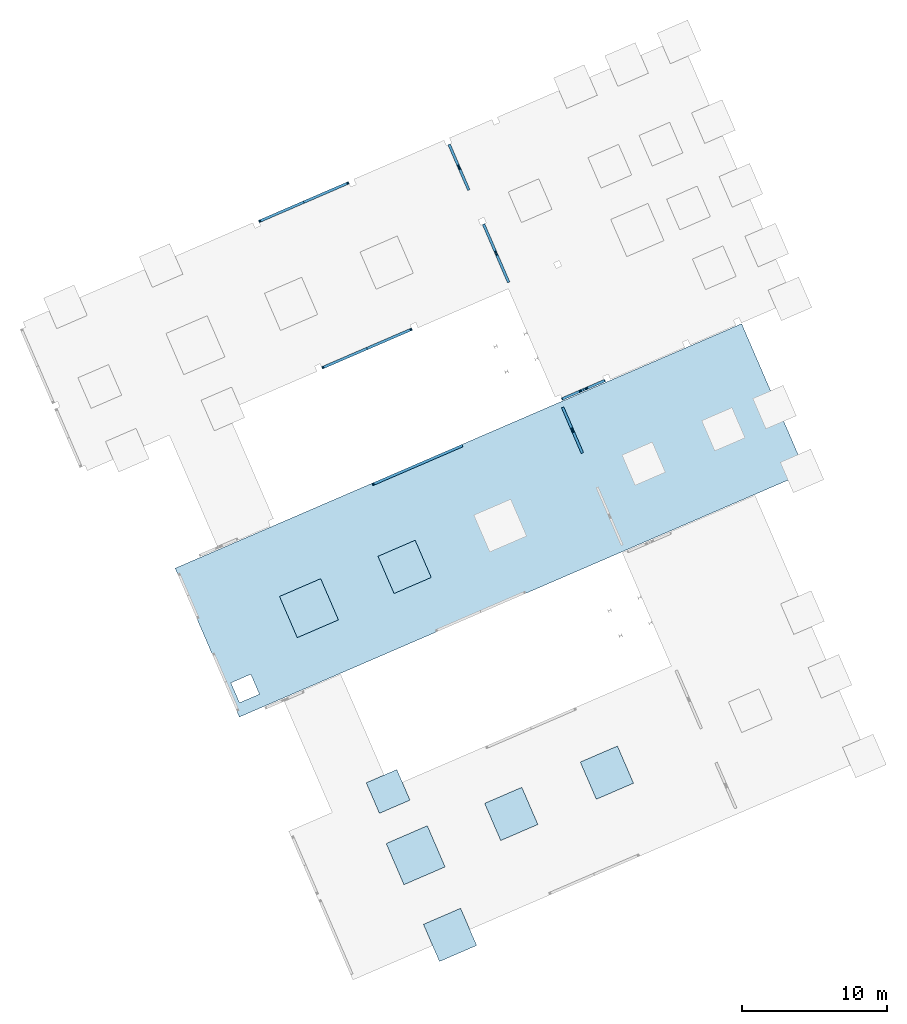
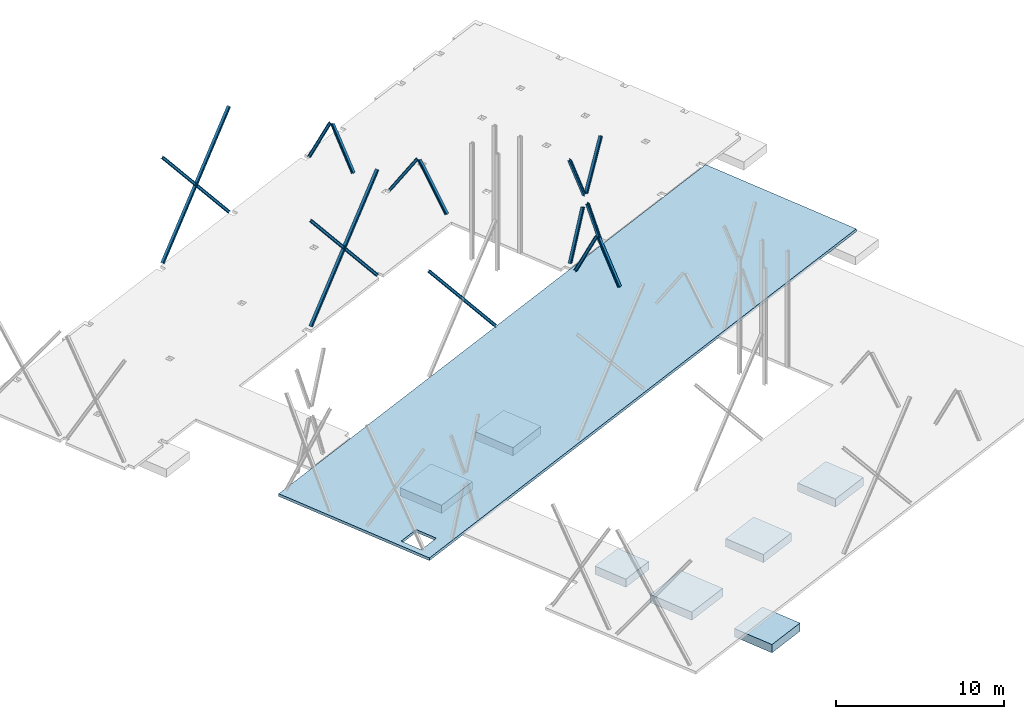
# One storey, part 4 of 6: 15 members, 8 slabs, 1 opening.
"""IFC4 building model written with IfcOpenShell, lengths in metres."""

from ifc_helpers import new_model, entity, si_unit, converted_unit, derived_unit, direction, frame, origin, place, context, subcontext, project, spatial, line, arc, indexed_curve, outline, extrude, source, transform, mapped, material, type_object, type_shapes, element, save


model = new_model("IFC4")

# Units and contexts
model_context = context("Model", 3, precision=1e-05, world=origin(), true_north=direction((6.12323399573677e-17, 1.0)))
body_context = subcontext(model_context, "Body", "Model", "MODEL_VIEW")
ifc_project = project(units=[si_unit("LENGTHUNIT", "METRE"), si_unit("AREAUNIT", "SQUARE_METRE"), si_unit("VOLUMEUNIT", "CUBIC_METRE"), converted_unit("PLANEANGLEUNIT", "DEGREE", entity("IfcPlaneAngleMeasure", 0.0174532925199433), si_unit("PLANEANGLEUNIT", "RADIAN"), dimensions=[0, 0, 0, 0, 0, 0, 0]), si_unit("MASSUNIT", "GRAM", prefix="KILO"), derived_unit("MOMENTOFINERTIAUNIT", [(si_unit("LENGTHUNIT", "METRE"), 4)]), derived_unit("LINEARFORCEUNIT", [(si_unit("MASSUNIT", "GRAM", prefix="KILO"), 1), (si_unit("TIMEUNIT", "SECOND"), -2)]), derived_unit("WARPINGCONSTANTUNIT", [(si_unit("LENGTHUNIT", "METRE"), 6)]), derived_unit("THERMALTRANSMITTANCEUNIT", [(si_unit("MASSUNIT", "GRAM", prefix="KILO"), 1), (si_unit("THERMODYNAMICTEMPERATUREUNIT", "KELVIN"), -1), (si_unit("TIMEUNIT", "SECOND"), -3)]), derived_unit("USERDEFINED", [(si_unit("MASSUNIT", "GRAM", prefix="KILO"), 1), (si_unit("TIMEUNIT", "SECOND"), -2), (si_unit("THERMODYNAMICTEMPERATUREUNIT", "KELVIN"), -1)]), derived_unit("THERMALRESISTANCEUNIT", [(si_unit("MASSUNIT", "GRAM", prefix="KILO"), -1), (si_unit("TIMEUNIT", "SECOND"), 3), (si_unit("THERMODYNAMICTEMPERATUREUNIT", "KELVIN"), 1)])], contexts=[model_context])

# Site, building, storey
site_placement = place(None, origin())
site = spatial("IfcSite", under=ifc_project, at=site_placement, Name="Default", CompositionType="ELEMENT")
building_placement = place(site_placement, frame((12.6613425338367, -82.5732315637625, 317.15), z_axis=(0.0, 0.0, 1.0), x_axis=(-0.396377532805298, 0.918087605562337, 0.0)))
building = spatial("IfcBuilding", under=site, at=building_placement, Name="CESFAM Coyhaique", CompositionType="ELEMENT")
storey_placement = place(building_placement, frame((0.0, 0.0, -0.0500000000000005)))
storey = spatial("IfcBuildingStorey", under=building, at=storey_placement, Name="Nivel 1", CompositionType="ELEMENT", Elevation=-0.0500000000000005)

# Members
ifc_material_1 = material(Name="Steel, 45-345", Category="Metal")
member_type_1 = type_object("IfcMemberType", Name="M_Double C-Channel:doble T HEB 180", PredefinedType="BRACE", material=ifc_material_1)
shared_shape_1 = source(origin(), body_context, "Body", "SweptSolid", [
    extrude(outline(indexed_curve([(-0.045425, -0.0899999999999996), (0.0445749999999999, -0.0899999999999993), (0.0397422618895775, -0.0783327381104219), (0.0280749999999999, -0.0735000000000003), (-0.0272249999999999, -0.0647413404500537), (-0.0272249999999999, 0.0647413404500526), (0.0280750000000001, 0.0734999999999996), (0.0397422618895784, 0.078332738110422), (0.044575, 0.0900000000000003), (-0.045425, 0.0900000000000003)], segments=[line(1, 2), arc(2, 3, 4), line(4, 5, 6, 7), arc(7, 8, 9), line(9, 10, 1)], self_intersect=False)), frame((-5.19380430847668, -0.0454249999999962, 0.0), z_axis=(1.0, 0.0, 0.0), x_axis=(0.0, -1.0, 0.0)), (0.0, 0.0, 1.0), 10.1788586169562),
    extrude(outline(indexed_curve([(-0.0899999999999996, -0.045425), (0.0900000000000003, -0.045425), (0.0900000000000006, 0.044575), (0.0783327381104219, 0.0397422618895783), (0.0734999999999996, 0.028075), (0.0647413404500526, -0.0272249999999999), (-0.0647413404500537, -0.0272249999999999), (-0.0735000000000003, 0.0280749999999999), (-0.0783327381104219, 0.0397422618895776), (-0.0899999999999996, 0.0445749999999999)], segments=[line(1, 2, 3), arc(3, 4, 5), line(5, 6, 7, 8), arc(8, 9, 10), line(10, 1)], self_intersect=False)), frame((-5.19380430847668, 0.0454250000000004, 0.0), z_axis=(1.0, 0.0, 0.0), x_axis=(0.0, 0.0, -1.0)), (0.0, 0.0, 1.0), 10.1788586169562),
])
type_shapes(member_type_1, [shared_shape_1])
for number, where, z_axis, x_axis in (
    (1, (34.878853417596, -0.72898966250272, 4.1162273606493), (0.0, -0.757332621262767, 0.653029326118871), (0.0, 0.653029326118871, 0.757332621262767)),
    (2, (43.6588534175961, -0.865309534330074, 4.1162273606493), (0.0, 0.757332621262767, 0.653029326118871), (0.0, -0.653029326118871, 0.757332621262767)),
    (3, (54.6788534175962, -0.728989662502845, 4.1162273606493), (0.0, -0.757332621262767, 0.653029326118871), (0.0, 0.653029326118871, 0.757332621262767)),
):
    element("IfcMember", number, at=place(storey_placement, frame(where, z_axis=z_axis, x_axis=x_axis)), inside=storey, type_object=member_type_1, Name="M_Double C-Channel:doble T HEB 180", ObjectType="M_Double C-Channel:doble T HEB 180", PredefinedType="BRACE", context=body_context, shape_type="MappedRepresentation", body=[
        mapped(shared_shape_1, transform((0.0, 0.0, 0.0), scale=1.0)),
    ])
member_type_2 = type_object("IfcMemberType", Name="M_Double C-Channel:doble T HEB 180", PredefinedType="BRACE", material=ifc_material_1)
shared_shape_2 = source(origin(), body_context, "Body", "SweptSolid", [
    extrude(outline(indexed_curve([(-0.0899999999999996, -0.045425), (0.0900000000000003, -0.045425), (0.0900000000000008, 0.044575), (0.078332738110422, 0.0397422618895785), (0.0734999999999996, 0.028075), (0.0647413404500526, -0.0272249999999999), (-0.0647413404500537, -0.0272249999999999), (-0.0735000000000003, 0.0280749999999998), (-0.0783327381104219, 0.0397422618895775), (-0.0899999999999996, 0.0445749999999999)], segments=[line(1, 2, 3), arc(3, 4, 5), line(5, 6, 7, 8), arc(8, 9, 10), line(10, 1)], self_intersect=False)), frame((-5.19380430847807, 0.0454249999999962, 0.0), z_axis=(1.0, 0.0, 0.0), x_axis=(0.0, 0.0, -1.0)), (0.0, 0.0, 1.0), 10.1788586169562),
    extrude(outline(indexed_curve([(-0.045425, -0.0899999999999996), (0.0445749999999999, -0.0899999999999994), (0.0397422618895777, -0.078332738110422), (0.0280749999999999, -0.0735000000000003), (-0.0272249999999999, -0.0647413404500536), (-0.0272249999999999, 0.0647413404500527), (0.0280749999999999, 0.0734999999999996), (0.0397422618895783, 0.0783327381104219), (0.044575, 0.0900000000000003), (-0.045425, 0.0900000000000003)], segments=[line(1, 2), arc(2, 3, 4), line(4, 5, 6, 7), arc(7, 8, 9), line(9, 10, 1)], self_intersect=False)), frame((-5.19380430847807, -0.0454250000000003, 0.0), z_axis=(1.0, 0.0, 0.0), x_axis=(0.0, -1.0, 0.0)), (0.0, 0.0, 1.0), 10.1788586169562),
])
type_shapes(member_type_2, [shared_shape_2])
for number, where, z_axis, x_axis in (
    (4, (43.6588534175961, -0.728989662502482, 4.1162273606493), (0.0, -0.757332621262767, 0.653029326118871), (0.0, 0.653029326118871, 0.757332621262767)),
    (5, (54.6788534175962, -0.865309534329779, 4.1162273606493), (0.0, 0.757332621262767, 0.653029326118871), (0.0, -0.653029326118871, 0.757332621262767)),
):
    element("IfcMember", number, at=place(storey_placement, frame(where, z_axis=z_axis, x_axis=x_axis)), inside=storey, type_object=member_type_2, Name="M_Double C-Channel:doble T HEB 180", ObjectType="M_Double C-Channel:doble T HEB 180", PredefinedType="BRACE", context=body_context, shape_type="MappedRepresentation", body=[
        mapped(shared_shape_2, transform((0.0, 0.0, 0.0), scale=1.0)),
    ])
member_type_3 = type_object("IfcMemberType", Name="M_Double C-Channel:doble T HEB 180", PredefinedType="BRACE", material=ifc_material_1)
shared_shape_3 = source(origin(), body_context, "Body", "SweptSolid", [
    extrude(outline(indexed_curve([(-0.0899999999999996, -0.045425), (0.0900000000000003, -0.045425), (0.0900000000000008, 0.044575), (0.078332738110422, 0.0397422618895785), (0.0734999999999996, 0.028075), (0.0647413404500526, -0.0272249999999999), (-0.0647413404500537, -0.0272249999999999), (-0.0735000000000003, 0.0280749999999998), (-0.0783327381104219, 0.0397422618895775), (-0.0899999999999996, 0.0445749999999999)], segments=[line(1, 2, 3), arc(3, 4, 5), line(5, 6, 7, 8), arc(8, 9, 10), line(10, 1)], self_intersect=False)), frame((-1.80744670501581, 0.0454249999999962, 0.0), z_axis=(1.0, 0.0, 0.0), x_axis=(0.0, 0.0, -1.0)), (0.0, 0.0, 1.0), 3.70517275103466),
    extrude(outline(indexed_curve([(-0.045425, -0.0899999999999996), (0.0445749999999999, -0.0899999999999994), (0.0397422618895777, -0.078332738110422), (0.0280749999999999, -0.0735000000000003), (-0.0272249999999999, -0.0647413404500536), (-0.0272249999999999, 0.0647413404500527), (0.0280749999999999, 0.0734999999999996), (0.0397422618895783, 0.0783327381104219), (0.044575, 0.0900000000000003), (-0.045425, 0.0900000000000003)], segments=[line(1, 2), arc(2, 3, 4), line(4, 5, 6, 7), arc(7, 8, 9), line(9, 10, 1)], self_intersect=False)), frame((-1.80744670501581, -0.0454250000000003, 0.0), z_axis=(1.0, 0.0, 0.0), x_axis=(0.0, -1.0, 0.0)), (0.0, 0.0, 1.0), 3.70517275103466),
])
type_shapes(member_type_3, [shared_shape_3])
member_1_placement = place(storey_placement, frame((45.0440533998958, -11.5971495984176, 1.77555343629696), z_axis=(-0.835555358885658, 0.0, 0.54940626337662), x_axis=(0.549406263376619, 0.0, 0.835555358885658)))
element("IfcMember", 6, at=member_1_placement, inside=storey, type_object=member_type_3, Name="M_Double C-Channel:doble T HEB 180", ObjectType="M_Double C-Channel:doble T HEB 180", PredefinedType="BRACE", context=body_context, shape_type="MappedRepresentation", body=[
    mapped(shared_shape_3, transform((0.0, 0.0, 0.0), scale=1.0)),
])
member_type_4 = type_object("IfcMemberType", Name="M_Double C-Channel:doble T HEB 180", PredefinedType="BRACE", material=ifc_material_1)
shared_shape_4 = source(origin(), body_context, "Body", "SweptSolid", [
    extrude(outline(indexed_curve([(-0.045425, -0.0899999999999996), (0.0445749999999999, -0.0899999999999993), (0.0397422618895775, -0.0783327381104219), (0.0280749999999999, -0.0735000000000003), (-0.0272249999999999, -0.0647413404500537), (-0.0272249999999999, 0.0647413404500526), (0.0280750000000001, 0.0734999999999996), (0.0397422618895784, 0.078332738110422), (0.044575, 0.0900000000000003), (-0.045425, 0.0900000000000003)], segments=[line(1, 2), arc(2, 3, 4), line(4, 5, 6, 7), arc(7, 8, 9), line(9, 10, 1)], self_intersect=False)), frame((-1.80744670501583, -0.0454249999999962, 0.0), z_axis=(1.0, 0.0, 0.0), x_axis=(0.0, -1.0, 0.0)), (0.0, 0.0, 1.0), 3.70517275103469),
    extrude(outline(indexed_curve([(-0.0899999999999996, -0.045425), (0.0900000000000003, -0.045425), (0.0900000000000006, 0.044575), (0.0783327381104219, 0.0397422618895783), (0.0734999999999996, 0.028075), (0.0647413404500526, -0.0272249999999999), (-0.0647413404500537, -0.0272249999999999), (-0.0735000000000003, 0.0280749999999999), (-0.0783327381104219, 0.0397422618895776), (-0.0899999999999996, 0.0445749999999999)], segments=[line(1, 2, 3), arc(3, 4, 5), line(5, 6, 7, 8), arc(8, 9, 10), line(10, 1)], self_intersect=False)), frame((-1.80744670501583, 0.0454250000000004, 0.0), z_axis=(1.0, 0.0, 0.0), x_axis=(0.0, 0.0, -1.0)), (0.0, 0.0, 1.0), 3.70517275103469),
])
type_shapes(member_type_4, [shared_shape_4])
member_2_placement = place(storey_placement, frame((47.2936534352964, -11.5971495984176, 1.77555343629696), z_axis=(0.835555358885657, 0.0, 0.549406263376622), x_axis=(-0.549406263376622, 0.0, 0.835555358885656)))
element("IfcMember", 7, at=member_2_placement, inside=storey, type_object=member_type_4, Name="M_Double C-Channel:doble T HEB 180", ObjectType="M_Double C-Channel:doble T HEB 180", PredefinedType="BRACE", context=body_context, shape_type="MappedRepresentation", body=[
    mapped(shared_shape_4, transform((0.0, 0.0, 0.0), scale=1.0)),
])
member_type_5 = type_object("IfcMemberType", Name="M_Double C-Channel:doble T HEB 180", PredefinedType="BRACE", material=ifc_material_1)
shared_shape_5 = source(origin(), body_context, "Body", "SweptSolid", [
    extrude(outline(indexed_curve([(-0.0899999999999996, -0.045425), (0.0900000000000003, -0.045425), (0.0900000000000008, 0.044575), (0.078332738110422, 0.0397422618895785), (0.0734999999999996, 0.028075), (0.0647413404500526, -0.0272249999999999), (-0.0647413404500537, -0.0272249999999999), (-0.0735000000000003, 0.0280749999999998), (-0.0783327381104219, 0.0397422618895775), (-0.0899999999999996, 0.0445749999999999)], segments=[line(1, 2, 3), arc(3, 4, 5), line(5, 6, 7, 8), arc(8, 9, 10), line(10, 1)], self_intersect=False)), frame((-1.6218286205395, 0.0454249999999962, 0.0), z_axis=(1.0, 0.0, 0.0), x_axis=(0.0, 0.0, -1.0)), (0.0, 0.0, 1.0), 3.32193403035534),
    extrude(outline(indexed_curve([(-0.045425, -0.0899999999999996), (0.0445749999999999, -0.0899999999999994), (0.0397422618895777, -0.078332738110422), (0.0280749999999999, -0.0735000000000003), (-0.0272249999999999, -0.0647413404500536), (-0.0272249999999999, 0.0647413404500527), (0.0280749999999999, 0.0734999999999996), (0.0397422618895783, 0.0783327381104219), (0.044575, 0.0900000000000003), (-0.045425, 0.0900000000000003)], segments=[line(1, 2), arc(2, 3, 4), line(4, 5, 6, 7), arc(7, 8, 9), line(9, 10, 1)], self_intersect=False)), frame((-1.6218286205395, -0.0454250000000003, 0.0), z_axis=(1.0, 0.0, 0.0), x_axis=(0.0, -1.0, 0.0)), (0.0, 0.0, 1.0), 3.32193403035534),
])
type_shapes(member_type_5, [shared_shape_5])
for number, where, z_axis, x_axis in (
    (8, (31.9609605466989, -11.5971495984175, 1.78301541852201), (-0.884523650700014, 0.0, 0.466495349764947), (0.466495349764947, 0.0, 0.884523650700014)),
    (9, (51.7609605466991, -11.5971495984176, 1.78301541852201), (-0.884523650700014, 0.0, 0.466495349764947), (0.466495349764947, 0.0, 0.884523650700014)),
):
    element("IfcMember", number, at=place(storey_placement, frame(where, z_axis=z_axis, x_axis=x_axis)), inside=storey, type_object=member_type_5, Name="M_Double C-Channel:doble T HEB 180", ObjectType="M_Double C-Channel:doble T HEB 180", PredefinedType="BRACE", context=body_context, shape_type="MappedRepresentation", body=[
        mapped(shared_shape_5, transform((0.0, 0.0, 0.0), scale=1.0)),
    ])
member_type_6 = type_object("IfcMemberType", Name="M_Double C-Channel:doble T HEB 180", PredefinedType="BRACE", material=ifc_material_1)
shared_shape_6 = source(origin(), body_context, "Body", "SweptSolid", [
    extrude(outline(indexed_curve([(-0.045425, -0.0899999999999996), (0.0445749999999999, -0.0899999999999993), (0.0397422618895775, -0.0783327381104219), (0.0280749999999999, -0.0735000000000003), (-0.0272249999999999, -0.0647413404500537), (-0.0272249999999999, 0.0647413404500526), (0.0280750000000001, 0.0734999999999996), (0.0397422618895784, 0.078332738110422), (0.044575, 0.0900000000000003), (-0.045425, 0.0900000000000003)], segments=[line(1, 2), arc(2, 3, 4), line(4, 5, 6, 7), arc(7, 8, 9), line(9, 10, 1)], self_intersect=False)), frame((-1.80410523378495, -0.0454249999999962, 0.0), z_axis=(1.0, 0.0, 0.0), x_axis=(0.0, -1.0, 0.0)), (0.0, 0.0, 1.0), 3.48136523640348),
    extrude(outline(indexed_curve([(-0.0899999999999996, -0.045425), (0.0900000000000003, -0.045425), (0.0900000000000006, 0.044575), (0.0783327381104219, 0.0397422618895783), (0.0734999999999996, 0.028075), (0.0647413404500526, -0.0272249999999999), (-0.0647413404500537, -0.0272249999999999), (-0.0735000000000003, 0.0280749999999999), (-0.0783327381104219, 0.0397422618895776), (-0.0899999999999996, 0.0445749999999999)], segments=[line(1, 2, 3), arc(3, 4, 5), line(5, 6, 7, 8), arc(8, 9, 10), line(10, 1)], self_intersect=False)), frame((-1.80410523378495, 0.0454250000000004, 0.0), z_axis=(1.0, 0.0, 0.0), x_axis=(0.0, 0.0, -1.0)), (0.0, 0.0, 1.0), 3.48136523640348),
])
type_shapes(member_type_6, [shared_shape_6])
for number, where, z_axis, x_axis in (
    (10, (33.6758549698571, -11.5971495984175, 1.78475077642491), (0.894427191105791, 0.0, 0.447213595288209), (-0.447213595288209, 0.0, 0.89442719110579)),
    (11, (53.4758549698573, -11.5971495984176, 1.78475077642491), (0.89442719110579, 0.0, 0.44721359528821), (-0.447213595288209, 0.0, 0.89442719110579)),
):
    element("IfcMember", number, at=place(storey_placement, frame(where, z_axis=z_axis, x_axis=x_axis)), inside=storey, type_object=member_type_6, Name="M_Double C-Channel:doble T HEB 180", ObjectType="M_Double C-Channel:doble T HEB 180", PredefinedType="BRACE", context=body_context, shape_type="MappedRepresentation", body=[
        mapped(shared_shape_6, transform((0.0, 0.0, 0.0), scale=1.0)),
    ])
member_type_7 = type_object("IfcMemberType", Name="M_Double C-Channel:doble T HEB 180", PredefinedType="BRACE", material=ifc_material_1)
shared_shape_7 = source(origin(), body_context, "Body", "SweptSolid", [
    extrude(outline(indexed_curve([(-0.045425, -0.0899999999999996), (0.0445749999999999, -0.0899999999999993), (0.0397422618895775, -0.0783327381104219), (0.0280749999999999, -0.0735000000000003), (-0.0272249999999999, -0.0647413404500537), (-0.0272249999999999, 0.0647413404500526), (0.0280750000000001, 0.0734999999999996), (0.0397422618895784, 0.078332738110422), (0.044575, 0.0900000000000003), (-0.045425, 0.0900000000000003)], segments=[line(1, 2), arc(2, 3, 4), line(4, 5, 6, 7), arc(7, 8, 9), line(9, 10, 1)], self_intersect=False)), frame((-1.93196328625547, -0.0454249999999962, 0.0), z_axis=(1.0, 0.0, 0.0), x_axis=(0.0, -1.0, 0.0)), (0.0, 0.0, 1.0), 3.61850350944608),
    extrude(outline(indexed_curve([(-0.0899999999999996, -0.045425), (0.0900000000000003, -0.045425), (0.0900000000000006, 0.044575), (0.0783327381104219, 0.0397422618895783), (0.0734999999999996, 0.028075), (0.0647413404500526, -0.0272249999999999), (-0.0647413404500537, -0.0272249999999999), (-0.0735000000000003, 0.0280749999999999), (-0.0783327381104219, 0.0397422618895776), (-0.0899999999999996, 0.0445749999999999)], segments=[line(1, 2, 3), arc(3, 4, 5), line(5, 6, 7, 8), arc(8, 9, 10), line(10, 1)], self_intersect=False)), frame((-1.93196328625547, 0.0454250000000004, 0.0), z_axis=(1.0, 0.0, 0.0), x_axis=(0.0, 0.0, -1.0)), (0.0, 0.0, 1.0), 3.61850350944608),
])
type_shapes(member_type_7, [shared_shape_7])
member_3_placement = place(storey_placement, frame((35.1088533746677, -12.4879057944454, 1.83482114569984), z_axis=(0.0, 0.93587592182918, 0.352329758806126), x_axis=(0.0, 0.352329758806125, -0.93587592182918)))
element("IfcMember", 12, at=member_3_placement, inside=storey, type_object=member_type_7, Name="M_Double C-Channel:doble T HEB 180", ObjectType="M_Double C-Channel:doble T HEB 180", PredefinedType="BRACE", context=body_context, shape_type="MappedRepresentation", body=[
    mapped(shared_shape_7, transform((0.0, 0.0, 0.0), scale=1.0)),
])
member_type_8 = type_object("IfcMemberType", Name="M_Double C-Channel:doble T HEB 180", PredefinedType="BRACE", material=ifc_material_1)
shared_shape_8 = source(origin(), body_context, "Body", "SweptSolid", [
    extrude(outline(indexed_curve([(-0.0899999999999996, -0.045425), (0.0900000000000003, -0.045425), (0.0900000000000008, 0.044575), (0.078332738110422, 0.0397422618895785), (0.0734999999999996, 0.028075), (0.0647413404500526, -0.0272249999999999), (-0.0647413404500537, -0.0272249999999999), (-0.0735000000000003, 0.0280749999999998), (-0.0783327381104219, 0.0397422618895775), (-0.0899999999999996, 0.0445749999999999)], segments=[line(1, 2, 3), arc(3, 4, 5), line(5, 6, 7, 8), arc(8, 9, 10), line(10, 1)], self_intersect=False)), frame((-1.93196328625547, 0.0454249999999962, 0.0), z_axis=(1.0, 0.0, 0.0), x_axis=(0.0, 0.0, -1.0)), (0.0, 0.0, 1.0), 3.62667750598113),
    extrude(outline(indexed_curve([(-0.045425, -0.0899999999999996), (0.0445749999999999, -0.0899999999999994), (0.0397422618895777, -0.078332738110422), (0.0280749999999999, -0.0735000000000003), (-0.0272249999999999, -0.0647413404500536), (-0.0272249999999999, 0.0647413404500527), (0.0280749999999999, 0.0734999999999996), (0.0397422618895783, 0.0783327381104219), (0.044575, 0.0900000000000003), (-0.045425, 0.0900000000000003)], segments=[line(1, 2), arc(2, 3, 4), line(4, 5, 6, 7), arc(7, 8, 9), line(9, 10, 1)], self_intersect=False)), frame((-1.93196328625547, -0.0454250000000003, 0.0), z_axis=(1.0, 0.0, 0.0), x_axis=(0.0, -1.0, 0.0)), (0.0, 0.0, 1.0), 3.62667750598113),
])
type_shapes(member_type_8, [shared_shape_8])
member_4_placement = place(storey_placement, frame((35.1088533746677, -14.3066061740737, 1.83425597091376), z_axis=(0.0, -0.935875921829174, 0.352329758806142), x_axis=(0.0, -0.352329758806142, -0.935875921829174)))
element("IfcMember", 13, at=member_4_placement, inside=storey, type_object=member_type_8, Name="M_Double C-Channel:doble T HEB 180", ObjectType="M_Double C-Channel:doble T HEB 180", PredefinedType="BRACE", context=body_context, shape_type="MappedRepresentation", body=[
    mapped(shared_shape_8, transform((0.0, 0.0, 0.0), scale=1.0)),
])
member_type_9 = type_object("IfcMemberType", Name="M_Double C-Channel:doble T HEB 180", PredefinedType="BRACE", material=ifc_material_1)
shared_shape_9 = source(origin(), body_context, "Body", "SweptSolid", [
    extrude(outline(indexed_curve([(-0.045425, -0.0899999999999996), (0.0445749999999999, -0.0899999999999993), (0.0397422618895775, -0.0783327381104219), (0.0280749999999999, -0.0735000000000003), (-0.0272249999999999, -0.0647413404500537), (-0.0272249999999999, 0.0647413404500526), (0.0280750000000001, 0.0734999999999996), (0.0397422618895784, 0.078332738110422), (0.044575, 0.0900000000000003), (-0.045425, 0.0900000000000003)], segments=[line(1, 2), arc(2, 3, 4), line(4, 5, 6, 7), arc(7, 8, 9), line(9, 10, 1)], self_intersect=False)), frame((-1.82612543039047, -0.0454249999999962, 0.0), z_axis=(1.0, 0.0, 0.0), x_axis=(0.0, -1.0, 0.0)), (0.0, 0.0, 1.0), 3.66495086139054),
    extrude(outline(indexed_curve([(-0.0899999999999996, -0.045425), (0.0900000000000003, -0.045425), (0.0900000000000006, 0.044575), (0.0783327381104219, 0.0397422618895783), (0.0734999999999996, 0.028075), (0.0647413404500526, -0.0272249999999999), (-0.0647413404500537, -0.0272249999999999), (-0.0735000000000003, 0.0280749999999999), (-0.0783327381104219, 0.0397422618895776), (-0.0899999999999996, 0.0445749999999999)], segments=[line(1, 2, 3), arc(3, 4, 5), line(5, 6, 7, 8), arc(8, 9, 10), line(10, 1)], self_intersect=False)), frame((-1.82612543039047, 0.0454250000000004, 0.0), z_axis=(1.0, 0.0, 0.0), x_axis=(0.0, 0.0, -1.0)), (0.0, 0.0, 1.0), 3.66495086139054),
])
type_shapes(member_type_9, [shared_shape_9])
member_5_placement = place(storey_placement, frame((35.1088533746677, -14.217823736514, 6.12216287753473), z_axis=(0.0, 0.915869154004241, 0.401476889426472), x_axis=(0.0, -0.401476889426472, 0.915869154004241)))
element("IfcMember", 14, at=member_5_placement, inside=storey, type_object=member_type_9, Name="M_Double C-Channel:doble T HEB 180", ObjectType="M_Double C-Channel:doble T HEB 180", PredefinedType="BRACE", context=body_context, shape_type="MappedRepresentation", body=[
    mapped(shared_shape_9, transform((0.0, 0.0, 0.0), scale=1.0)),
])
member_type_10 = type_object("IfcMemberType", Name="M_Double C-Channel:doble T HEB 180", PredefinedType="BRACE", material=ifc_material_1)
shared_shape_10 = source(origin(), body_context, "Body", "SweptSolid", [
    extrude(outline(indexed_curve([(-0.0899999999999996, -0.045425), (0.0900000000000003, -0.045425), (0.0900000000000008, 0.044575), (0.078332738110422, 0.0397422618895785), (0.0734999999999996, 0.028075), (0.0647413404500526, -0.0272249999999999), (-0.0647413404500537, -0.0272249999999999), (-0.0735000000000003, 0.0280749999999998), (-0.0783327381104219, 0.0397422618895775), (-0.0899999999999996, 0.0445749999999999)], segments=[line(1, 2, 3), arc(3, 4, 5), line(5, 6, 7, 8), arc(8, 9, 10), line(10, 1)], self_intersect=False)), frame((-1.82649385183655, 0.0454249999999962, 0.0), z_axis=(1.0, 0.0, 0.0), x_axis=(0.0, 0.0, -1.0)), (0.0, 0.0, 1.0), 3.6656877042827),
    extrude(outline(indexed_curve([(-0.045425, -0.0899999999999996), (0.0445749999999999, -0.0899999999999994), (0.0397422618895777, -0.078332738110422), (0.0280749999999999, -0.0735000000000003), (-0.0272249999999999, -0.0647413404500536), (-0.0272249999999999, 0.0647413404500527), (0.0280749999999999, 0.0734999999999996), (0.0397422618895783, 0.0783327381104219), (0.044575, 0.0900000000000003), (-0.045425, 0.0900000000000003)], segments=[line(1, 2), arc(2, 3, 4), line(4, 5, 6, 7), arc(7, 8, 9), line(9, 10, 1)], self_intersect=False)), frame((-1.82649385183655, -0.0454250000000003, 0.0), z_axis=(1.0, 0.0, 0.0), x_axis=(0.0, -1.0, 0.0)), (0.0, 0.0, 1.0), 3.6656877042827),
])
type_shapes(member_type_10, [shared_shape_10])
member_6_placement = place(storey_placement, frame((35.1088533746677, -12.5763275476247, 6.12250030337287), z_axis=(0.0, -0.915869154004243, 0.401476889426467), x_axis=(0.0, 0.401476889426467, 0.915869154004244)))
element("IfcMember", 15, at=member_6_placement, inside=storey, type_object=member_type_10, Name="M_Double C-Channel:doble T HEB 180", ObjectType="M_Double C-Channel:doble T HEB 180", PredefinedType="BRACE", context=body_context, shape_type="MappedRepresentation", body=[
    mapped(shared_shape_10, transform((0.0, 0.0, 0.0), scale=1.0)),
])

# Slab, opening
ifc_material_2 = material(Name="HA")
slab_type_1 = type_object("IfcSlabType", Name="Floor:Radier - 100mm", PredefinedType="FLOOR", material=ifc_material_2)
slab_1_placement = place(storey_placement, origin())
slab_1 = element("IfcSlab", 16, at=slab_1_placement, inside=storey, type_object=slab_type_1, material=ifc_material_2, Name="Floor:Radier - 100mm", ObjectType="Floor:Radier - 100mm", PredefinedType="FLOOR", context=body_context, shape_type="SweptSolid", body=[
    extrude(outline(indexed_curve([(-5.53999999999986, -19.7199999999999), (5.65999999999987, -19.7199999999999), (5.65999999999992, 22.9299999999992), (-5.53999999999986, 22.9299999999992), (-5.53999999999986, -19.7199999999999)], self_intersect=False), holes=[indexed_curve([(-4.64020743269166, 21.0298301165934), (-4.64020743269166, 22.5299999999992), (-3.14020743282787, 22.5299999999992), (-3.14020743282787, 21.0298301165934), (-4.64020743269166, 21.0298301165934)], self_intersect=False)]), frame((29.3088534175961, -5.52714959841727, -0.2)), (0.0, 0.0, 1.0), 0.2),
])
opening_placement = place(slab_1_placement, origin())
element("IfcOpeningElement", 17, at=opening_placement, cuts=slab_1, Name="Floor:Radier - 100mm", PredefinedType="OPENING", context=body_context, shape_type="SweptSolid", body=[
    extrude(outline(indexed_curve([(24.6686459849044, 15.5026805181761), (26.1686459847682, 15.5026805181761), (26.1686459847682, 17.0028504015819), (24.6686459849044, 17.0028504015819), (24.6686459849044, 15.5026805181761)], self_intersect=False)), frame((0.0, 0.0, 0.0500000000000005)), (0.0, 0.0, -1.0), 42.6499999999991),
])

# Slabs
ifc_material_3 = material(Name="HA", Category="Undefined")
slab_type_2 = type_object("IfcSlabType", Name="M_Pile Cap-Rectangular:2800 x 2800 x 600mm", PredefinedType="BASESLAB", material=ifc_material_2)
slab_2_placement = place(storey_placement, origin())
element("IfcSlab", 18, at=slab_2_placement, inside=storey, type_object=slab_type_2, material=ifc_material_3, Name="M_Pile Cap-Rectangular:2800 x 2800 x 600mm", ObjectType="M_Pile Cap-Rectangular:2800 x 2800 x 600mm", PredefinedType="BASESLAB", context=body_context, shape_type="SweptSolid", body=[
    extrude(outline(indexed_curve([(-1.12, -1.4), (0.179999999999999, -1.4), (0.380000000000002, -1.4), (1.68, -1.4), (1.68, 1.4), (0.380000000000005, 1.4), (0.180000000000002, 1.4), (-1.12, 1.4), (-1.12, 0.100000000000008), (-1.12, -0.0999999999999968), (-1.12, -1.4)], self_intersect=False)), frame((4.44885341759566, 10.0028504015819, -1.5), z_axis=(0.0, 0.0, 1.0), x_axis=(-1.0, 0.0, 0.0)), (0.0, 0.0, 1.0), 0.6),
])
slab_3_placement = place(storey_placement, origin())
element("IfcSlab", 19, at=slab_3_placement, inside=storey, type_object=slab_type_2, material=ifc_material_3, Name="M_Pile Cap-Rectangular:2800 x 2800 x 600mm", ObjectType="M_Pile Cap-Rectangular:2800 x 2800 x 600mm", PredefinedType="BASESLAB", context=body_context, shape_type="SweptSolid", body=[
    extrude(outline(indexed_curve([(-1.4, -1.4), (-0.0999999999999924, -1.4), (0.10000000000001, -1.4), (1.4, -1.4), (1.4, -0.0999999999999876), (1.4, 0.100000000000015), (1.4, 1.4), (0.100000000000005, 1.4), (-0.0999999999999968, 1.4), (-1.4, 1.4), (-1.4, 0.100000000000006), (-1.4, -0.0999999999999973), (-1.4, -1.4)], self_intersect=False)), frame((10.1688534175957, 2.80285040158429, -1.5), z_axis=(0.0, 0.0, 1.0), x_axis=(-1.0, 0.0, 0.0)), (0.0, 0.0, 1.0), 0.6),
])
slab_4_placement = place(storey_placement, origin())
element("IfcSlab", 20, at=slab_4_placement, inside=storey, type_object=slab_type_2, material=ifc_material_3, Name="M_Pile Cap-Rectangular:2800 x 2800 x 600mm", ObjectType="M_Pile Cap-Rectangular:2800 x 2800 x 600mm", PredefinedType="BASESLAB", context=body_context, shape_type="SweptSolid", body=[
    extrude(outline(indexed_curve([(-1.4, -1.40000000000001), (-0.0999999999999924, -1.40000000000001), (0.10000000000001, -1.40000000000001), (1.4, -1.40000000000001), (1.4, -0.0999999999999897), (1.4, 0.100000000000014), (1.4, 1.4), (0.100000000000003, 1.4), (-0.100000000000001, 1.4), (-1.4, 1.4), (-1.4, 0.100000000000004), (-1.4, -0.0999999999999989), (-1.4, -1.40000000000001)], self_intersect=False)), frame((10.1688534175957, -4.39714959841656, -1.5), z_axis=(0.0, 0.0, 1.0), x_axis=(-1.0, 0.0, 0.0)), (0.0, 0.0, 1.0), 0.6),
])
slab_5_placement = place(storey_placement, origin())
element("IfcSlab", 21, at=slab_5_placement, inside=storey, type_object=slab_type_2, material=ifc_material_3, Name="M_Pile Cap-Rectangular:2800 x 2800 x 600mm", ObjectType="M_Pile Cap-Rectangular:2800 x 2800 x 600mm", PredefinedType="BASESLAB", context=body_context, shape_type="SweptSolid", body=[
    extrude(outline(indexed_curve([(-1.40000000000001, -1.4), (-0.100000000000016, -1.4), (0.0999999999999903, -1.4), (1.39999999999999, -1.4), (1.39999999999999, -0.0999999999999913), (1.39999999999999, 0.100000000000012), (1.39999999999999, 1.4), (0.0999999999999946, 1.4), (-0.100000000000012, 1.4), (-1.40000000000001, 1.4), (-1.40000000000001, 0.100000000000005), (-1.40000000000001, -0.0999999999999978), (-1.40000000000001, -1.4)], self_intersect=False)), frame((28.7688534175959, 2.80285040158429, -1.5), z_axis=(0.0, 0.0, 1.0), x_axis=(-1.0, 0.0, 0.0)), (0.0, 0.0, 1.0), 0.6),
])
slab_type_3 = type_object("IfcSlabType", Name="M_Pile Cap-Rectangular:2300 x 2300 x 600mm", PredefinedType="BASESLAB", material=ifc_material_2)
slab_6_placement = place(storey_placement, origin())
element("IfcSlab", 22, at=slab_6_placement, inside=storey, type_object=slab_type_3, material=ifc_material_3, Name="M_Pile Cap-Rectangular:2300 x 2300 x 600mm", ObjectType="M_Pile Cap-Rectangular:2300 x 2300 x 600mm", PredefinedType="BASESLAB", context=body_context, shape_type="SweptSolid", body=[
    extrude(outline(indexed_curve([(-1.15, -1.15000000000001), (-0.0999999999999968, -1.15000000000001), (0.100000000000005, -1.15000000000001), (1.15, -1.15000000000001), (1.15, -0.0999999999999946), (1.15, 0.10000000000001), (1.15, 1.15), (0.0999999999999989, 1.15), (-0.100000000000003, 1.14999999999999), (-1.15, 1.15), (-1.15, 0.100000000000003), (-1.15, -0.0999999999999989), (-1.15, -1.15000000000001)], self_intersect=False)), frame((14.9688534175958, 10.0028504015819, -1.5), z_axis=(0.0, 0.0, 1.0), x_axis=(-1.0, 0.0, 0.0)), (0.0, 0.0, 1.0), 0.6),
])
slab_type_4 = type_object("IfcSlabType", Name="M_Pile Cap-Rectangular:3100 x 3100 x 600mm", PredefinedType="BASESLAB", material=ifc_material_2)
slab_7_placement = place(storey_placement, origin())
element("IfcSlab", 23, at=slab_7_placement, inside=storey, type_object=slab_type_4, material=ifc_material_3, Name="M_Pile Cap-Rectangular:3100 x 3100 x 600mm", ObjectType="M_Pile Cap-Rectangular:3100 x 3100 x 600mm", PredefinedType="BASESLAB", context=body_context, shape_type="SweptSolid", body=[
    extrude(outline(indexed_curve([(-1.55, -1.55), (-0.0999999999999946, -1.55), (0.10000000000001, -1.55), (1.55, -1.55), (1.55, -0.0999999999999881), (1.55, 0.100000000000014), (1.55, 1.54999999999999), (0.100000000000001, 1.54999999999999), (-0.100000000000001, 1.54999999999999), (-1.55, 1.54999999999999), (-1.55, 0.100000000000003), (-1.55, -0.100000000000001), (-1.55, -1.55)], self_intersect=False)), frame((10.1688534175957, 10.0028504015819, -1.5), z_axis=(0.0, 0.0, 1.0), x_axis=(-1.0, 0.0, 0.0)), (0.0, 0.0, 1.0), 0.6),
])
slab_8_placement = place(storey_placement, origin())
element("IfcSlab", 24, at=slab_8_placement, inside=storey, type_object=slab_type_4, material=ifc_material_3, Name="M_Pile Cap-Rectangular:3100 x 3100 x 600mm", ObjectType="M_Pile Cap-Rectangular:3100 x 3100 x 600mm", PredefinedType="BASESLAB", context=body_context, shape_type="SweptSolid", body=[
    extrude(outline(indexed_curve([(-1.55000000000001, -1.55), (-0.0999999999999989, -1.55), (0.100000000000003, -1.55), (1.54999999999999, -1.55), (1.54999999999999, -0.0999999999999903), (1.54999999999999, 0.100000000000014), (1.54999999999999, 1.55), (0.0999999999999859, 1.55), (-0.100000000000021, 1.55), (-1.55000000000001, 1.55), (-1.55000000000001, 0.100000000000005), (-1.55000000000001, -0.0999999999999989), (-1.55000000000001, -1.55)], self_intersect=False)), frame((28.7688534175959, 10.0028504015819, -1.5), z_axis=(0.0, 0.0, 1.0), x_axis=(-1.0, 0.0, 0.0)), (0.0, 0.0, 1.0), 0.6),
])

save(model, "model.ifc")
